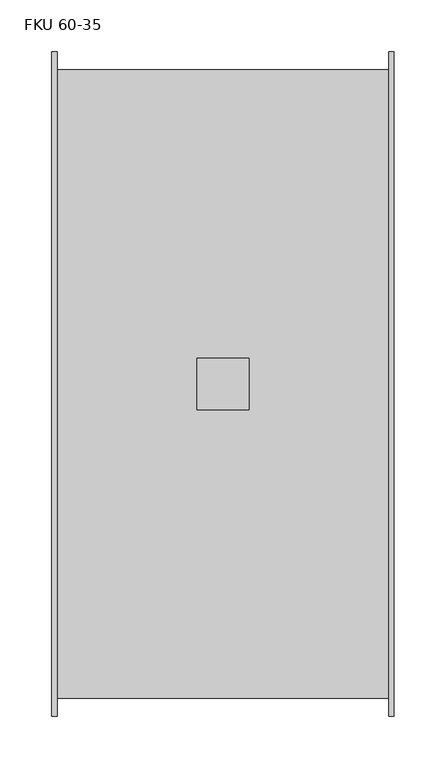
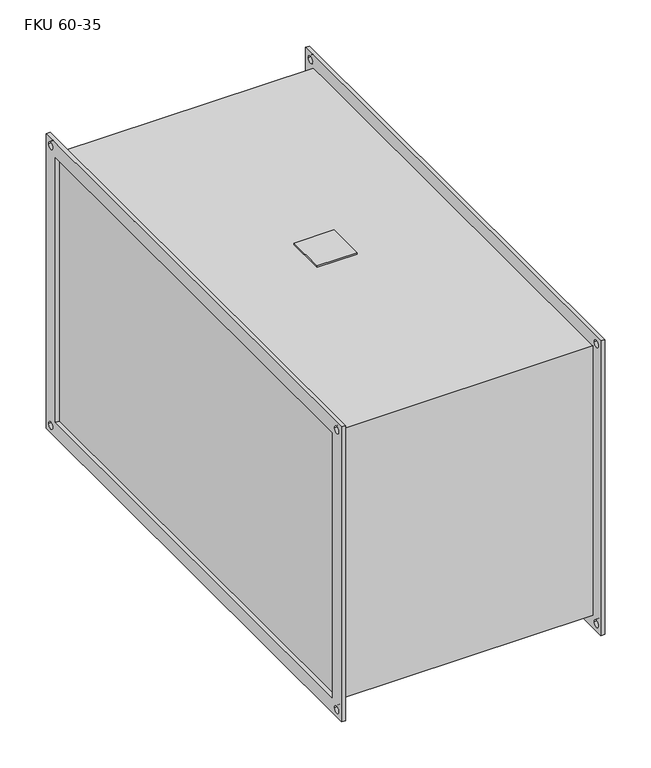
"""IFC4 building model written with IfcOpenShell, lengths in millimetres: damper geometry, KORF_Фильтр_Карманный_Укороченный_FKU : FKU 60-35."""

from ifc_helpers import new_model, si_unit, point, frame, frame_2d, origin, place, context, project, spatial, polyline, circle_curve, trimmed, segment, composite_curve, outline, extrude, source, transform, mapped, element, save


def fku_60_35_e6e70716(model_context):
    return source(origin(), model_context, "Body", "SweptSolid", [
        extrude(outline(polyline([(140.0, -25.0), (140.0, 25.0), (190.0, 25.0), (190.0, -25.0), (140.0, -25.0)])), frame((0.0, 0.0, 178.0), z_axis=(0.0, 0.0, 1.0), x_axis=(1.0, 0.0, 0.0)), (0.0, 0.0, 1.0), 2.0),
        extrude(outline(polyline([(-320.0, 195.0), (320.0, 195.0), (320.0, -195.0), (-320.0, -195.0), (-320.0, 195.0)]), holes=[polyline([(-300.0, 175.0), (-300.0, -175.0), (300.0, -175.0), (300.0, 175.0), (-300.0, 175.0)]), composite_curve([segment(trimmed(circle_curve(frame_2d((310.0, 185.0)), 4.5), [point((305.5, 185.0))], [point((314.5, 185.0))], True, "CARTESIAN"), True, "CONTINUOUS"), segment(trimmed(circle_curve(frame_2d((310.0, 185.0)), 4.5), [point((314.5, 185.0))], [point((305.5, 185.0))], True, "CARTESIAN"), True, "CONTINUOUS")], self_intersect=False), composite_curve([segment(trimmed(circle_curve(frame_2d((-310.0, 185.0)), 4.5), [point((-314.5, 185.0))], [point((-305.5, 185.0))], True, "CARTESIAN"), True, "CONTINUOUS"), segment(trimmed(circle_curve(frame_2d((-310.0, 185.0)), 4.5), [point((-305.5, 185.0))], [point((-314.5, 185.0))], True, "CARTESIAN"), True, "CONTINUOUS")], self_intersect=False), composite_curve([segment(trimmed(circle_curve(frame_2d((-310.0, -185.0)), 4.5), [point((-314.5, -185.0))], [point((-305.5, -185.0))], True, "CARTESIAN"), True, "CONTINUOUS"), segment(trimmed(circle_curve(frame_2d((-310.0, -185.0)), 4.5), [point((-305.5, -185.0))], [point((-314.5, -185.0))], True, "CARTESIAN"), True, "CONTINUOUS")], self_intersect=False), composite_curve([segment(trimmed(circle_curve(frame_2d((310.0, -185.0)), 4.5), [point((305.5, -185.0))], [point((314.5, -185.0))], True, "CARTESIAN"), True, "CONTINUOUS"), segment(trimmed(circle_curve(frame_2d((310.0, -185.0)), 4.5), [point((314.5, -185.0))], [point((305.5, -185.0))], True, "CARTESIAN"), True, "CONTINUOUS")], self_intersect=False)]), frame((325.0, 0.0, 0.0), z_axis=(1.0, 0.0, 0.0), x_axis=(0.0, 1.0, 0.0)), (0.0, 0.0, 1.0), 5.0),
        extrude(outline(polyline([(-320.0, 195.0), (320.0, 195.0), (320.0, -195.0), (-320.0, -195.0), (-320.0, 195.0)]), holes=[polyline([(-300.0, 175.0), (-300.0, -175.0), (300.0, -175.0), (300.0, 175.0), (-300.0, 175.0)]), composite_curve([segment(trimmed(circle_curve(frame_2d((310.0, 185.0)), 4.5), [point((305.5, 185.0))], [point((314.5, 185.0))], True, "CARTESIAN"), True, "CONTINUOUS"), segment(trimmed(circle_curve(frame_2d((310.0, 185.0)), 4.5), [point((314.5, 185.0))], [point((305.5, 185.0))], True, "CARTESIAN"), True, "CONTINUOUS")], self_intersect=False), composite_curve([segment(trimmed(circle_curve(frame_2d((-310.0, 185.0)), 4.5), [point((-314.5, 185.0))], [point((-305.5, 185.0))], True, "CARTESIAN"), True, "CONTINUOUS"), segment(trimmed(circle_curve(frame_2d((-310.0, 185.0)), 4.5), [point((-305.5, 185.0))], [point((-314.5, 185.0))], True, "CARTESIAN"), True, "CONTINUOUS")], self_intersect=False), composite_curve([segment(trimmed(circle_curve(frame_2d((-310.0, -185.0)), 4.5), [point((-314.5, -185.0))], [point((-305.5, -185.0))], True, "CARTESIAN"), True, "CONTINUOUS"), segment(trimmed(circle_curve(frame_2d((-310.0, -185.0)), 4.5), [point((-305.5, -185.0))], [point((-314.5, -185.0))], True, "CARTESIAN"), True, "CONTINUOUS")], self_intersect=False), composite_curve([segment(trimmed(circle_curve(frame_2d((310.0, -185.0)), 4.5), [point((305.5, -185.0))], [point((314.5, -185.0))], True, "CARTESIAN"), True, "CONTINUOUS"), segment(trimmed(circle_curve(frame_2d((310.0, -185.0)), 4.5), [point((314.5, -185.0))], [point((305.5, -185.0))], True, "CARTESIAN"), True, "CONTINUOUS")], self_intersect=False)]), frame((0.0, 0.0, 0.0), z_axis=(1.0, 0.0, 0.0), x_axis=(0.0, 1.0, 0.0)), (0.0, 0.0, 1.0), 5.0),
        extrude(outline(polyline([(325.0, 303.0), (325.0, -303.0), (5.0, -303.0), (5.0, 303.0), (325.0, 303.0)])), frame((0.0, 0.0, -178.0), z_axis=(0.0, 0.0, 1.0), x_axis=(1.0, 0.0, 0.0)), (0.0, 0.0, 1.0), 356.0),
    ])


if __name__ == "__main__":
    model = new_model("IFC4")
    model_context = context("Model", 3, world=origin())
    ifc_project = project(units=[si_unit("LENGTHUNIT", "METRE", prefix="MILLI")], contexts=[model_context])
    site = spatial("IfcSite", under=ifc_project)
    building = spatial("IfcBuilding", under=site)
    placement = place(None, origin())
    fku_60_35_shape = fku_60_35_e6e70716(model_context)
    element("IfcDamper", 1, ObjectType="KORF_Фильтр_Карманный_Укороченный_FKU : FKU 60-35", at=placement, inside=building, context=model_context, shape_type="MappedRepresentation", body=[
        mapped(fku_60_35_shape, transform((0.0, 0.0, 0.0), x_axis=(1.0, 0.0, 0.0), y_axis=(0.0, 1.0, 0.0), z_axis=(0.0, 0.0, 1.0))),
    ])
    save(model, "model.ifc")
